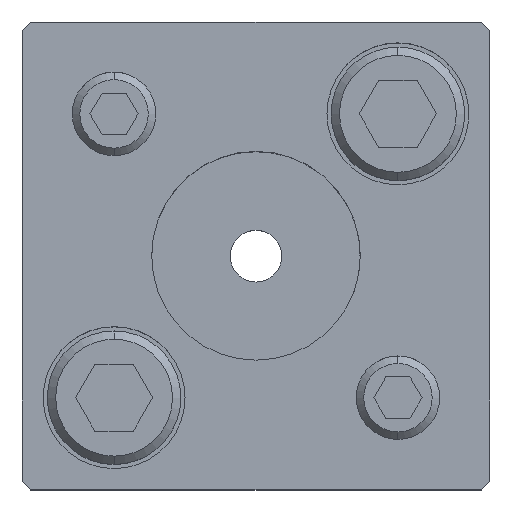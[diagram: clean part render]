
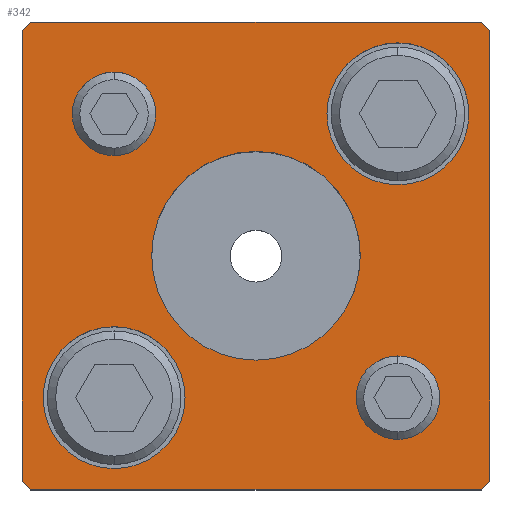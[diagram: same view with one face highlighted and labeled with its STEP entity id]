
A CAD part, top view. The second image highlights one B-rep face of the part: STEP entity #342.
In plain terms, the highlighted planar face has unit normal (0, 0, 1).
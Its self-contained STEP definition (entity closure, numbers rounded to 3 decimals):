
#167=PLANE('',#2889);
#246=FACE_BOUND('',#713,.T.);
#247=FACE_BOUND('',#714,.T.);
#248=FACE_BOUND('',#715,.T.);
#249=FACE_BOUND('',#716,.T.);
#250=FACE_BOUND('',#717,.T.);
#251=FACE_BOUND('',#718,.T.);
#342=ADVANCED_FACE('',(#246,#247,#248,#249,#250,#251),#167,.T.);
#713=EDGE_LOOP('',(#1572,#1573,#1574,#1575,#1576,#1577,#1578,#1579));
#714=EDGE_LOOP('',(#1580,#1581));
#715=EDGE_LOOP('',(#1582,#1583));
#716=EDGE_LOOP('',(#1584,#1585));
#717=EDGE_LOOP('',(#1586,#1587));
#718=EDGE_LOOP('',(#1588,#1589));
#899=LINE('',#4234,#1120);
#900=LINE('',#4237,#1121);
#901=LINE('',#4239,#1122);
#902=LINE('',#4241,#1123);
#903=LINE('',#4243,#1124);
#904=LINE('',#4245,#1125);
#905=LINE('',#4247,#1126);
#906=LINE('',#4249,#1127);
#1120=VECTOR('',#3408,1.);
#1121=VECTOR('',#3409,1.);
#1122=VECTOR('',#3410,1.);
#1123=VECTOR('',#3411,1.);
#1124=VECTOR('',#3412,1.);
#1125=VECTOR('',#3413,1.);
#1126=VECTOR('',#3414,1.);
#1127=VECTOR('',#3415,1.);
#1572=ORIENTED_EDGE('',*,*,#2396,.T.);
#1573=ORIENTED_EDGE('',*,*,#2397,.T.);
#1574=ORIENTED_EDGE('',*,*,#2398,.T.);
#1575=ORIENTED_EDGE('',*,*,#2399,.T.);
#1576=ORIENTED_EDGE('',*,*,#2400,.T.);
#1577=ORIENTED_EDGE('',*,*,#2401,.T.);
#1578=ORIENTED_EDGE('',*,*,#2402,.T.);
#1579=ORIENTED_EDGE('',*,*,#2403,.T.);
#1580=ORIENTED_EDGE('',*,*,#2404,.F.);
#1581=ORIENTED_EDGE('',*,*,#2405,.F.);
#1582=ORIENTED_EDGE('',*,*,#2406,.F.);
#1583=ORIENTED_EDGE('',*,*,#2407,.F.);
#1584=ORIENTED_EDGE('',*,*,#2382,.F.);
#1585=ORIENTED_EDGE('',*,*,#2378,.F.);
#1586=ORIENTED_EDGE('',*,*,#2376,.F.);
#1587=ORIENTED_EDGE('',*,*,#2372,.F.);
#1588=ORIENTED_EDGE('',*,*,#2408,.T.);
#1589=ORIENTED_EDGE('',*,*,#2409,.T.);
#2088=VERTEX_POINT('',#4185);
#2089=VERTEX_POINT('',#4186);
#2092=VERTEX_POINT('',#4198);
#2093=VERTEX_POINT('',#4199);
#2104=VERTEX_POINT('',#4235);
#2105=VERTEX_POINT('',#4236);
#2106=VERTEX_POINT('',#4238);
#2107=VERTEX_POINT('',#4240);
#2108=VERTEX_POINT('',#4242);
#2109=VERTEX_POINT('',#4244);
#2110=VERTEX_POINT('',#4246);
#2111=VERTEX_POINT('',#4248);
#2112=VERTEX_POINT('',#4251);
#2113=VERTEX_POINT('',#4252);
#2114=VERTEX_POINT('',#4255);
#2115=VERTEX_POINT('',#4256);
#2116=VERTEX_POINT('',#4259);
#2117=VERTEX_POINT('',#4260);
#2372=EDGE_CURVE('',#2088,#2089,#2661,.T.);
#2376=EDGE_CURVE('',#2089,#2088,#2663,.T.);
#2378=EDGE_CURVE('',#2092,#2093,#2665,.T.);
#2382=EDGE_CURVE('',#2093,#2092,#2667,.T.);
#2396=EDGE_CURVE('',#2104,#2105,#899,.T.);
#2397=EDGE_CURVE('',#2105,#2106,#900,.T.);
#2398=EDGE_CURVE('',#2106,#2107,#901,.T.);
#2399=EDGE_CURVE('',#2107,#2108,#902,.T.);
#2400=EDGE_CURVE('',#2108,#2109,#903,.T.);
#2401=EDGE_CURVE('',#2109,#2110,#904,.T.);
#2402=EDGE_CURVE('',#2110,#2111,#905,.T.);
#2403=EDGE_CURVE('',#2111,#2104,#906,.T.);
#2404=EDGE_CURVE('',#2112,#2113,#2677,.T.);
#2405=EDGE_CURVE('',#2113,#2112,#2678,.T.);
#2406=EDGE_CURVE('',#2114,#2115,#2679,.T.);
#2407=EDGE_CURVE('',#2115,#2114,#2680,.T.);
#2408=EDGE_CURVE('',#2116,#2117,#2681,.T.);
#2409=EDGE_CURVE('',#2117,#2116,#2682,.T.);
#2661=CIRCLE('',#2857,5.);
#2663=CIRCLE('',#2860,5.);
#2665=CIRCLE('',#2864,5.);
#2667=CIRCLE('',#2867,5.);
#2677=CIRCLE('',#2883,8.5);
#2678=CIRCLE('',#2884,8.5);
#2679=CIRCLE('',#2885,8.5);
#2680=CIRCLE('',#2886,8.5);
#2681=CIRCLE('',#2887,12.5);
#2682=CIRCLE('',#2888,12.5);
#2857=AXIS2_PLACEMENT_3D('',#4184,#3348,#3349);
#2860=AXIS2_PLACEMENT_3D('',#4193,#3356,#3357);
#2864=AXIS2_PLACEMENT_3D('',#4197,#3364,#3365);
#2867=AXIS2_PLACEMENT_3D('',#4206,#3372,#3373);
#2883=AXIS2_PLACEMENT_3D('',#4250,#3416,#3417);
#2884=AXIS2_PLACEMENT_3D('',#4253,#3418,#3419);
#2885=AXIS2_PLACEMENT_3D('',#4254,#3420,#3421);
#2886=AXIS2_PLACEMENT_3D('',#4257,#3422,#3423);
#2887=AXIS2_PLACEMENT_3D('',#4258,#3424,#3425);
#2888=AXIS2_PLACEMENT_3D('',#4261,#3426,#3427);
#2889=AXIS2_PLACEMENT_3D('',#4262,#3428,#3429);
#3348=DIRECTION('',(0.,0.,1.));
#3349=DIRECTION('',(-1.,0.,0.));
#3356=DIRECTION('',(0.,0.,1.));
#3357=DIRECTION('',(1.,0.,0.));
#3364=DIRECTION('',(0.,0.,1.));
#3365=DIRECTION('',(-1.,0.,0.));
#3372=DIRECTION('',(0.,0.,1.));
#3373=DIRECTION('',(1.,0.,0.));
#3408=DIRECTION('',(0.707,0.707,0.));
#3409=DIRECTION('',(0.,1.,0.));
#3410=DIRECTION('',(-0.707,0.707,0.));
#3411=DIRECTION('',(-1.,0.,0.));
#3412=DIRECTION('',(-0.707,-0.707,0.));
#3413=DIRECTION('',(0.,-1.,0.));
#3414=DIRECTION('',(0.707,-0.707,0.));
#3415=DIRECTION('',(1.,0.,0.));
#3416=DIRECTION('',(0.,0.,1.));
#3417=DIRECTION('',(1.,0.,0.));
#3418=DIRECTION('',(0.,0.,1.));
#3419=DIRECTION('',(-1.,0.,0.));
#3420=DIRECTION('',(0.,0.,1.));
#3421=DIRECTION('',(1.,0.,0.));
#3422=DIRECTION('',(0.,0.,1.));
#3423=DIRECTION('',(-1.,0.,0.));
#3424=DIRECTION('',(0.,0.,-1.));
#3425=DIRECTION('',(-1.,0.,0.));
#3426=DIRECTION('',(0.,0.,-1.));
#3427=DIRECTION('',(1.,0.,0.));
#3428=DIRECTION('',(0.,0.,1.));
#3429=DIRECTION('',(-1.,0.,0.));
#4184=CARTESIAN_POINT('',(17.,-17.,35.));
#4185=CARTESIAN_POINT('',(17.,-22.,35.));
#4186=CARTESIAN_POINT('',(17.,-12.,35.));
#4193=CARTESIAN_POINT('',(17.,-17.,35.));
#4197=CARTESIAN_POINT('',(-17.,17.,35.));
#4198=CARTESIAN_POINT('',(-17.,12.,35.));
#4199=CARTESIAN_POINT('',(-17.,22.,35.));
#4206=CARTESIAN_POINT('',(-17.,17.,35.));
#4234=CARTESIAN_POINT('',(27.,-28.,35.));
#4235=CARTESIAN_POINT('',(27.,-28.,35.));
#4236=CARTESIAN_POINT('',(28.,-27.,35.));
#4237=CARTESIAN_POINT('',(28.,27.,35.));
#4238=CARTESIAN_POINT('',(28.,27.,35.));
#4239=CARTESIAN_POINT('',(28.,27.,35.));
#4240=CARTESIAN_POINT('',(27.,28.,35.));
#4241=CARTESIAN_POINT('',(-27.,28.,35.));
#4242=CARTESIAN_POINT('',(-27.,28.,35.));
#4243=CARTESIAN_POINT('',(-27.,28.,35.));
#4244=CARTESIAN_POINT('',(-28.,27.,35.));
#4245=CARTESIAN_POINT('',(-28.,27.,35.));
#4246=CARTESIAN_POINT('',(-28.,-27.,35.));
#4247=CARTESIAN_POINT('',(-28.,-27.,35.));
#4248=CARTESIAN_POINT('',(-27.,-28.,35.));
#4249=CARTESIAN_POINT('',(-27.,-28.,35.));
#4250=CARTESIAN_POINT('',(17.,17.,35.));
#4251=CARTESIAN_POINT('',(17.,25.5,35.));
#4252=CARTESIAN_POINT('',(17.,8.5,35.));
#4253=CARTESIAN_POINT('',(17.,17.,35.));
#4254=CARTESIAN_POINT('',(-17.,-17.,35.));
#4255=CARTESIAN_POINT('',(-17.,-8.5,35.));
#4256=CARTESIAN_POINT('',(-17.,-25.5,35.));
#4257=CARTESIAN_POINT('',(-17.,-17.,35.));
#4258=CARTESIAN_POINT('',(0.,0.,35.));
#4259=CARTESIAN_POINT('',(0.,12.5,35.));
#4260=CARTESIAN_POINT('',(0.,-12.5,35.));
#4261=CARTESIAN_POINT('',(0.,0.,35.));
#4262=CARTESIAN_POINT('',(27.,-28.,35.));
